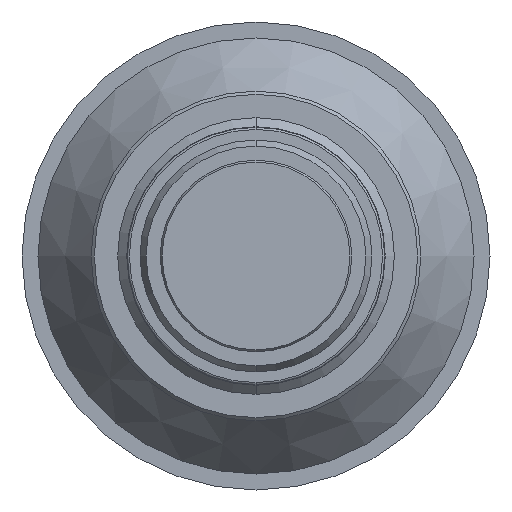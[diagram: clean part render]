
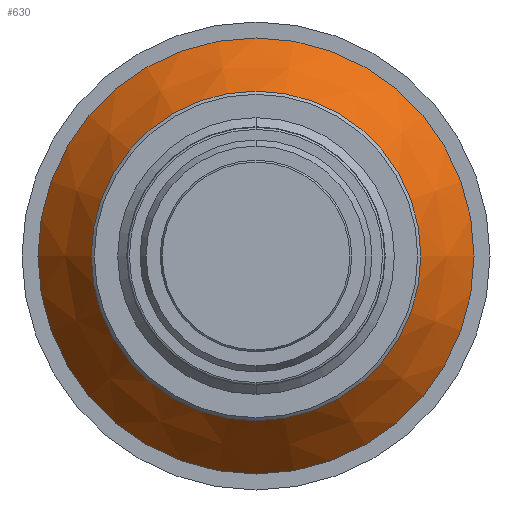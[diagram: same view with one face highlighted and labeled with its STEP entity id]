
A CAD part, front view. The second image highlights one B-rep face of the part: STEP entity #630.
In plain terms, the highlighted conical face has half-angle 36 degrees and reference radius 20.5 mm.
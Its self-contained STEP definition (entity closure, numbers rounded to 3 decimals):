
#241=FACE_BOUND('',#862,.T.);
#242=FACE_BOUND('',#863,.T.);
#383=CONICAL_SURFACE('',#2180,20.5,36.);
#630=ADVANCED_FACE('',(#241,#242),#383,.T.);
#862=EDGE_LOOP('',(#1304));
#863=EDGE_LOOP('',(#1305));
#1304=ORIENTED_EDGE('',*,*,#1791,.F.);
#1305=ORIENTED_EDGE('',*,*,#1790,.T.);
#1552=VERTEX_POINT('',#3372);
#1553=VERTEX_POINT('',#3375);
#1790=EDGE_CURVE('',#1552,#1552,#1952,.T.);
#1791=EDGE_CURVE('',#1553,#1553,#1953,.T.);
#1952=CIRCLE('',#2177,20.5);
#1953=CIRCLE('',#2179,15.414);
#2177=AXIS2_PLACEMENT_3D('',#3371,#2690,#2691);
#2179=AXIS2_PLACEMENT_3D('',#3374,#2694,#2695);
#2180=AXIS2_PLACEMENT_3D('',#3376,#2696,#2697);
#2690=DIRECTION('',(0.,-1.,0.));
#2691=DIRECTION('',(-1.,0.,0.));
#2694=DIRECTION('',(0.,-1.,0.));
#2695=DIRECTION('',(-1.,0.,0.));
#2696=DIRECTION('',(0.,1.,0.));
#2697=DIRECTION('',(1.,0.,0.));
#3371=CARTESIAN_POINT('',(-59.,74.5,0.));
#3372=CARTESIAN_POINT('',(-79.5,74.5,0.));
#3374=CARTESIAN_POINT('',(-59.,67.5,0.));
#3375=CARTESIAN_POINT('',(-74.414,67.5,0.));
#3376=CARTESIAN_POINT('',(-59.,74.5,0.));
